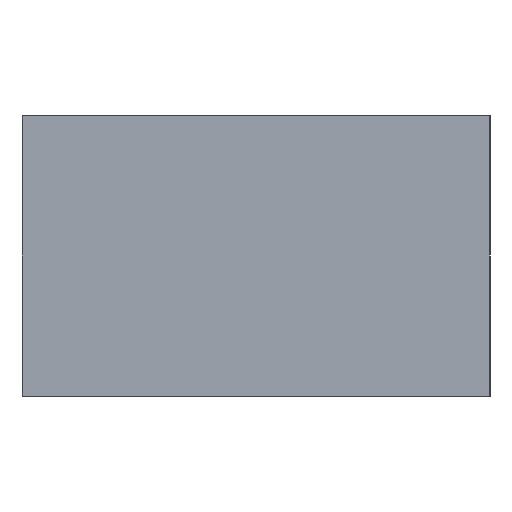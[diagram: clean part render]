
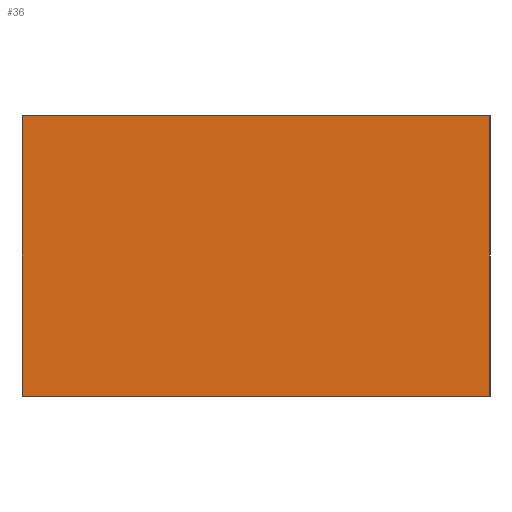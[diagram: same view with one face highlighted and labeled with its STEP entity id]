
A CAD part, left-side view. The second image highlights one B-rep face of the part: STEP entity #36.
In plain terms, the highlighted planar face has unit normal (-1, 0, 0).
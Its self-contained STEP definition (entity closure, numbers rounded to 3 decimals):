
#36 = ADVANCED_FACE('',(#37),#51,.F.);
#37 = FACE_BOUND('',#38,.F.);
#38 = EDGE_LOOP('',(#39,#74,#102,#130));
#39 = ORIENTED_EDGE('',*,*,#40,.F.);
#40 = EDGE_CURVE('',#41,#43,#45,.T.);
#41 = VERTEX_POINT('',#42);
#42 = CARTESIAN_POINT('',(0.,0.,0.));
#43 = VERTEX_POINT('',#44);
#44 = CARTESIAN_POINT('',(0.,0.,0.75));
#45 = SURFACE_CURVE('',#46,(#50,#62),.PCURVE_S1.);
#46 = LINE('',#47,#48);
#47 = CARTESIAN_POINT('',(0.,0.,0.));
#48 = VECTOR('',#49,1.);
#49 = DIRECTION('',(0.,0.,1.));
#50 = PCURVE('',#51,#56);
#51 = PLANE('',#52);
#52 = AXIS2_PLACEMENT_3D('',#53,#54,#55);
#53 = CARTESIAN_POINT('',(0.,0.,0.));
#54 = DIRECTION('',(1.,0.,-0.));
#55 = DIRECTION('',(0.,0.,1.));
#56 = DEFINITIONAL_REPRESENTATION('',(#57),#61);
#57 = LINE('',#58,#59);
#58 = CARTESIAN_POINT('',(0.,0.));
#59 = VECTOR('',#60,1.);
#60 = DIRECTION('',(1.,0.));
#61 = ( GEOMETRIC_REPRESENTATION_CONTEXT(2) 
PARAMETRIC_REPRESENTATION_CONTEXT() REPRESENTATION_CONTEXT('2D SPACE',''
  ) );
#62 = PCURVE('',#63,#68);
#63 = PLANE('',#64);
#64 = AXIS2_PLACEMENT_3D('',#65,#66,#67);
#65 = CARTESIAN_POINT('',(0.,0.,0.));
#66 = DIRECTION('',(-0.,1.,0.));
#67 = DIRECTION('',(0.,0.,1.));
#68 = DEFINITIONAL_REPRESENTATION('',(#69),#73);
#69 = LINE('',#70,#71);
#70 = CARTESIAN_POINT('',(0.,0.));
#71 = VECTOR('',#72,1.);
#72 = DIRECTION('',(1.,0.));
#73 = ( GEOMETRIC_REPRESENTATION_CONTEXT(2) 
PARAMETRIC_REPRESENTATION_CONTEXT() REPRESENTATION_CONTEXT('2D SPACE',''
  ) );
#74 = ORIENTED_EDGE('',*,*,#75,.T.);
#75 = EDGE_CURVE('',#41,#76,#78,.T.);
#76 = VERTEX_POINT('',#77);
#77 = CARTESIAN_POINT('',(0.,1.25,0.));
#78 = SURFACE_CURVE('',#79,(#83,#90),.PCURVE_S1.);
#79 = LINE('',#80,#81);
#80 = CARTESIAN_POINT('',(0.,0.,0.));
#81 = VECTOR('',#82,1.);
#82 = DIRECTION('',(-0.,1.,0.));
#83 = PCURVE('',#51,#84);
#84 = DEFINITIONAL_REPRESENTATION('',(#85),#89);
#85 = LINE('',#86,#87);
#86 = CARTESIAN_POINT('',(0.,0.));
#87 = VECTOR('',#88,1.);
#88 = DIRECTION('',(0.,-1.));
#89 = ( GEOMETRIC_REPRESENTATION_CONTEXT(2) 
PARAMETRIC_REPRESENTATION_CONTEXT() REPRESENTATION_CONTEXT('2D SPACE',''
  ) );
#90 = PCURVE('',#91,#96);
#91 = PLANE('',#92);
#92 = AXIS2_PLACEMENT_3D('',#93,#94,#95);
#93 = CARTESIAN_POINT('',(0.,0.,0.));
#94 = DIRECTION('',(0.,0.,1.));
#95 = DIRECTION('',(1.,0.,-0.));
#96 = DEFINITIONAL_REPRESENTATION('',(#97),#101);
#97 = LINE('',#98,#99);
#98 = CARTESIAN_POINT('',(0.,0.));
#99 = VECTOR('',#100,1.);
#100 = DIRECTION('',(0.,1.));
#101 = ( GEOMETRIC_REPRESENTATION_CONTEXT(2) 
PARAMETRIC_REPRESENTATION_CONTEXT() REPRESENTATION_CONTEXT('2D SPACE',''
  ) );
#102 = ORIENTED_EDGE('',*,*,#103,.T.);
#103 = EDGE_CURVE('',#76,#104,#106,.T.);
#104 = VERTEX_POINT('',#105);
#105 = CARTESIAN_POINT('',(0.,1.25,0.75));
#106 = SURFACE_CURVE('',#107,(#111,#118),.PCURVE_S1.);
#107 = LINE('',#108,#109);
#108 = CARTESIAN_POINT('',(0.,1.25,0.));
#109 = VECTOR('',#110,1.);
#110 = DIRECTION('',(0.,0.,1.));
#111 = PCURVE('',#51,#112);
#112 = DEFINITIONAL_REPRESENTATION('',(#113),#117);
#113 = LINE('',#114,#115);
#114 = CARTESIAN_POINT('',(0.,-1.25));
#115 = VECTOR('',#116,1.);
#116 = DIRECTION('',(1.,0.));
#117 = ( GEOMETRIC_REPRESENTATION_CONTEXT(2) 
PARAMETRIC_REPRESENTATION_CONTEXT() REPRESENTATION_CONTEXT('2D SPACE',''
  ) );
#118 = PCURVE('',#119,#124);
#119 = PLANE('',#120);
#120 = AXIS2_PLACEMENT_3D('',#121,#122,#123);
#121 = CARTESIAN_POINT('',(0.,1.25,0.));
#122 = DIRECTION('',(-0.,1.,0.));
#123 = DIRECTION('',(0.,0.,1.));
#124 = DEFINITIONAL_REPRESENTATION('',(#125),#129);
#125 = LINE('',#126,#127);
#126 = CARTESIAN_POINT('',(0.,0.));
#127 = VECTOR('',#128,1.);
#128 = DIRECTION('',(1.,0.));
#129 = ( GEOMETRIC_REPRESENTATION_CONTEXT(2) 
PARAMETRIC_REPRESENTATION_CONTEXT() REPRESENTATION_CONTEXT('2D SPACE',''
  ) );
#130 = ORIENTED_EDGE('',*,*,#131,.F.);
#131 = EDGE_CURVE('',#43,#104,#132,.T.);
#132 = SURFACE_CURVE('',#133,(#137,#144),.PCURVE_S1.);
#133 = LINE('',#134,#135);
#134 = CARTESIAN_POINT('',(0.,0.,0.75));
#135 = VECTOR('',#136,1.);
#136 = DIRECTION('',(-0.,1.,0.));
#137 = PCURVE('',#51,#138);
#138 = DEFINITIONAL_REPRESENTATION('',(#139),#143);
#139 = LINE('',#140,#141);
#140 = CARTESIAN_POINT('',(0.75,0.));
#141 = VECTOR('',#142,1.);
#142 = DIRECTION('',(0.,-1.));
#143 = ( GEOMETRIC_REPRESENTATION_CONTEXT(2) 
PARAMETRIC_REPRESENTATION_CONTEXT() REPRESENTATION_CONTEXT('2D SPACE',''
  ) );
#144 = PCURVE('',#145,#150);
#145 = PLANE('',#146);
#146 = AXIS2_PLACEMENT_3D('',#147,#148,#149);
#147 = CARTESIAN_POINT('',(0.,0.,0.75));
#148 = DIRECTION('',(0.,0.,1.));
#149 = DIRECTION('',(1.,0.,-0.));
#150 = DEFINITIONAL_REPRESENTATION('',(#151),#155);
#151 = LINE('',#152,#153);
#152 = CARTESIAN_POINT('',(0.,0.));
#153 = VECTOR('',#154,1.);
#154 = DIRECTION('',(0.,1.));
#155 = ( GEOMETRIC_REPRESENTATION_CONTEXT(2) 
PARAMETRIC_REPRESENTATION_CONTEXT() REPRESENTATION_CONTEXT('2D SPACE',''
  ) );
